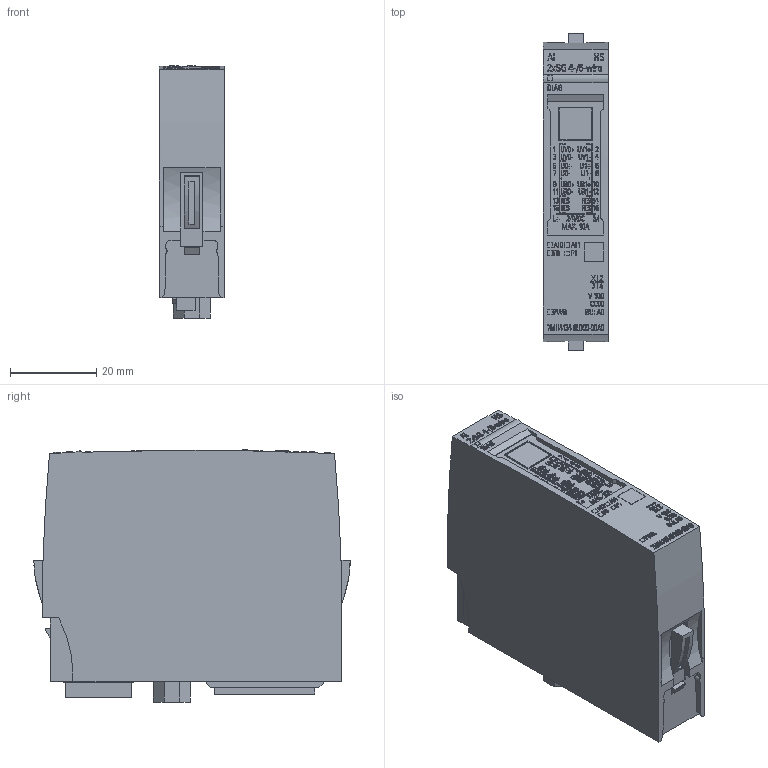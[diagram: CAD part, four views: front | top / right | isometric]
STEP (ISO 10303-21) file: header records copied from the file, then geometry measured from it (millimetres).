
FILE_DESCRIPTION(/* description */ (''),/* implementation_level */ '2;1');
FILE_NAME(/* name */ '7MH4134-6LB00-0DA0_3d.stp',/* time_stamp */ '2017-09-06T07:45:27+02:00',/* author */ ('Naepfel'),/* organization */ ('Siemens AG'),/* preprocessor_version */ 'ST-DEVELOPER v16',/* originating_system */ 'SIEMENS PLM Software NX 10.0',/* authorisation */ '');
FILE_SCHEMA (('AUTOMOTIVE_DESIGN { 1 0 10303 214 3 1 1 1 }'));
Products named in the file (3): A5E42945316A_001; A5E42945306A_001; A5E42945289A_001
Assembly tree (2 placements, depth 2):
  A5E42945289A_001
    A5E42945306A_001
    A5E42945316A_001
Bounding box: 15.1 x 73.2 x 58.37 mm (x, y, z)
Volume: 20007.5 mm3; surface area: 28158.1 mm2
Topology: 175 solids, 175 shells, 2645 faces, 6696 edges, 4478 vertices
Faces by surface type: plane 1742, extrusion 734, bspline 139, cylinder 30
Entity records: 125057 total; most frequent: CARTESIAN_POINT 45541, ORIENTED_EDGE 13392, DIRECTION 9120, EDGE_CURVE 6696, VECTOR 5396, LINE 4662, VERTEX_POINT 4478, EDGE_LOOP 2846
